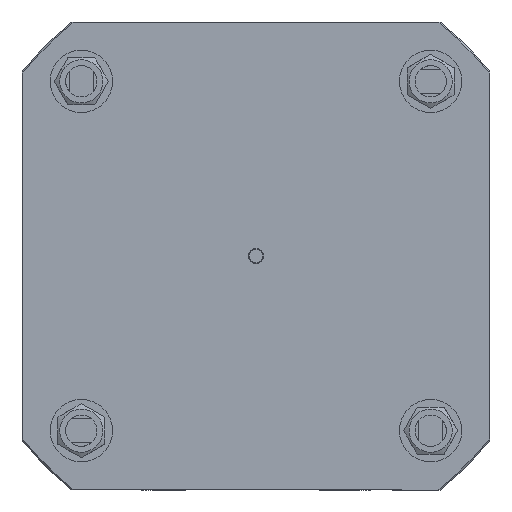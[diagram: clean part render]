
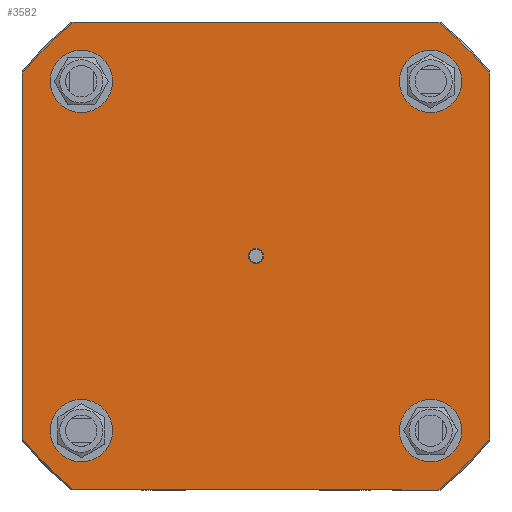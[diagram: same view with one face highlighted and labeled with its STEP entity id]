
A CAD part, left-side view. The second image highlights one B-rep face of the part: STEP entity #3582.
In plain terms, the highlighted planar face has unit normal (-1, 0, 0).
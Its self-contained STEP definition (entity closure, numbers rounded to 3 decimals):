
#229=LINE('',#6042,#432);
#230=LINE('',#6046,#433);
#231=LINE('',#6050,#434);
#232=LINE('',#6054,#435);
#432=VECTOR('',#4833,10.);
#433=VECTOR('',#4836,10.);
#434=VECTOR('',#4839,10.);
#435=VECTOR('',#4842,10.);
#661=FACE_BOUND('',#1067,.T.);
#662=FACE_BOUND('',#1068,.T.);
#663=FACE_BOUND('',#1069,.T.);
#664=FACE_BOUND('',#1070,.T.);
#665=FACE_BOUND('',#1071,.T.);
#831=FACE_OUTER_BOUND('',#1066,.T.);
#1066=EDGE_LOOP('',(#2898,#2899,#2900,#2901,#2902,#2903,#2904,#2905));
#1067=EDGE_LOOP('',(#2906));
#1068=EDGE_LOOP('',(#2907));
#1069=EDGE_LOOP('',(#2908));
#1070=EDGE_LOOP('',(#2909));
#1071=EDGE_LOOP('',(#2910));
#1147=CIRCLE('',#3698,12.);
#1149=CIRCLE('',#3702,12.);
#1151=CIRCLE('',#3706,12.);
#1154=CIRCLE('',#3711,12.);
#1178=CIRCLE('',#3766,3.);
#1287=CIRCLE('',#3963,114.);
#1288=CIRCLE('',#3964,114.);
#1289=CIRCLE('',#3965,114.);
#1290=CIRCLE('',#3966,114.);
#1380=VERTEX_POINT('',#5294);
#1382=VERTEX_POINT('',#5301);
#1384=VERTEX_POINT('',#5308);
#1387=VERTEX_POINT('',#5317);
#1435=VERTEX_POINT('',#5495);
#1589=VERTEX_POINT('',#6040);
#1590=VERTEX_POINT('',#6041);
#1591=VERTEX_POINT('',#6043);
#1592=VERTEX_POINT('',#6045);
#1593=VERTEX_POINT('',#6047);
#1594=VERTEX_POINT('',#6049);
#1595=VERTEX_POINT('',#6051);
#1596=VERTEX_POINT('',#6053);
#1725=EDGE_CURVE('',#1380,#1380,#1147,.T.);
#1728=EDGE_CURVE('',#1382,#1382,#1149,.T.);
#1731=EDGE_CURVE('',#1384,#1384,#1151,.T.);
#1735=EDGE_CURVE('',#1387,#1387,#1154,.T.);
#1810=EDGE_CURVE('',#1435,#1435,#1178,.T.);
#2041=EDGE_CURVE('',#1589,#1590,#229,.T.);
#2042=EDGE_CURVE('',#1590,#1591,#1287,.T.);
#2043=EDGE_CURVE('',#1591,#1592,#230,.T.);
#2044=EDGE_CURVE('',#1592,#1593,#1288,.T.);
#2045=EDGE_CURVE('',#1593,#1594,#231,.T.);
#2046=EDGE_CURVE('',#1594,#1595,#1289,.T.);
#2047=EDGE_CURVE('',#1595,#1596,#232,.T.);
#2048=EDGE_CURVE('',#1596,#1589,#1290,.T.);
#2898=ORIENTED_EDGE('',*,*,#2041,.T.);
#2899=ORIENTED_EDGE('',*,*,#2042,.T.);
#2900=ORIENTED_EDGE('',*,*,#2043,.T.);
#2901=ORIENTED_EDGE('',*,*,#2044,.T.);
#2902=ORIENTED_EDGE('',*,*,#2045,.T.);
#2903=ORIENTED_EDGE('',*,*,#2046,.T.);
#2904=ORIENTED_EDGE('',*,*,#2047,.T.);
#2905=ORIENTED_EDGE('',*,*,#2048,.T.);
#2906=ORIENTED_EDGE('',*,*,#1725,.T.);
#2907=ORIENTED_EDGE('',*,*,#1728,.T.);
#2908=ORIENTED_EDGE('',*,*,#1731,.T.);
#2909=ORIENTED_EDGE('',*,*,#1735,.T.);
#2910=ORIENTED_EDGE('',*,*,#1810,.T.);
#3212=PLANE('',#3962);
#3582=ADVANCED_FACE('',(#831,#661,#662,#663,#664,#665),#3212,.T.);
#3698=AXIS2_PLACEMENT_3D('',#5295,#4167,#4168);
#3702=AXIS2_PLACEMENT_3D('',#5302,#4176,#4177);
#3706=AXIS2_PLACEMENT_3D('',#5309,#4185,#4186);
#3711=AXIS2_PLACEMENT_3D('',#5318,#4196,#4197);
#3766=AXIS2_PLACEMENT_3D('',#5496,#4345,#4346);
#3962=AXIS2_PLACEMENT_3D('',#6039,#4831,#4832);
#3963=AXIS2_PLACEMENT_3D('',#6044,#4834,#4835);
#3964=AXIS2_PLACEMENT_3D('',#6048,#4837,#4838);
#3965=AXIS2_PLACEMENT_3D('',#6052,#4840,#4841);
#3966=AXIS2_PLACEMENT_3D('',#6055,#4843,#4844);
#4167=DIRECTION('center_axis',(1.,0.,0.));
#4168=DIRECTION('ref_axis',(0.,0.,-1.));
#4176=DIRECTION('center_axis',(1.,0.,0.));
#4177=DIRECTION('ref_axis',(0.,-1.,0.));
#4185=DIRECTION('center_axis',(1.,0.,0.));
#4186=DIRECTION('ref_axis',(0.,0.,1.));
#4196=DIRECTION('center_axis',(1.,0.,0.));
#4197=DIRECTION('ref_axis',(0.,1.,0.));
#4345=DIRECTION('center_axis',(1.,0.,0.));
#4346=DIRECTION('ref_axis',(0.,1.,0.));
#4831=DIRECTION('center_axis',(-1.,0.,0.));
#4832=DIRECTION('ref_axis',(0.,0.,-1.));
#4833=DIRECTION('',(0.,-1.,0.));
#4834=DIRECTION('center_axis',(-1.,0.,0.));
#4835=DIRECTION('ref_axis',(0.,0.,-1.));
#4836=DIRECTION('',(0.,0.,1.));
#4837=DIRECTION('center_axis',(-1.,0.,0.));
#4838=DIRECTION('ref_axis',(0.,0.,-1.));
#4839=DIRECTION('',(0.,1.,0.));
#4840=DIRECTION('center_axis',(-1.,0.,0.));
#4841=DIRECTION('ref_axis',(0.,0.,-1.));
#4842=DIRECTION('',(0.,0.,-1.));
#4843=DIRECTION('center_axis',(-1.,0.,0.));
#4844=DIRECTION('ref_axis',(0.,0.,-1.));
#5294=CARTESIAN_POINT('',(-266.066,41.797,19.88));
#5295=CARTESIAN_POINT('Origin',(-266.066,41.797,7.88));
#5301=CARTESIAN_POINT('',(-266.066,-80.554,7.88));
#5302=CARTESIAN_POINT('Origin',(-266.066,-92.554,7.88));
#5308=CARTESIAN_POINT('',(-266.066,-92.554,130.23));
#5309=CARTESIAN_POINT('Origin',(-266.066,-92.554,142.23));
#5317=CARTESIAN_POINT('',(-266.066,29.797,142.23));
#5318=CARTESIAN_POINT('Origin',(-266.066,41.797,142.23));
#5495=CARTESIAN_POINT('',(-266.066,-28.379,75.055));
#5496=CARTESIAN_POINT('Origin',(-266.066,-25.379,75.055));
#6039=CARTESIAN_POINT('Origin',(-266.066,-28.479,75.055));
#6040=CARTESIAN_POINT('',(-266.066,44.593,-14.945));
#6041=CARTESIAN_POINT('',(-266.066,-95.35,-14.945));
#6042=CARTESIAN_POINT('',(-266.066,8.866,-14.945));
#6043=CARTESIAN_POINT('',(-266.066,-115.379,5.083));
#6044=CARTESIAN_POINT('Origin',(-266.066,-25.379,75.055));
#6045=CARTESIAN_POINT('',(-266.066,-115.379,145.026));
#6046=CARTESIAN_POINT('',(-266.066,-115.379,39.26));
#6047=CARTESIAN_POINT('',(-266.066,-95.35,165.055));
#6048=CARTESIAN_POINT('Origin',(-266.066,-25.379,75.055));
#6049=CARTESIAN_POINT('',(-266.066,44.593,165.055));
#6050=CARTESIAN_POINT('',(-266.066,-62.723,165.055));
#6051=CARTESIAN_POINT('',(-266.066,64.621,145.026));
#6052=CARTESIAN_POINT('Origin',(-266.066,-25.379,75.055));
#6053=CARTESIAN_POINT('',(-266.066,64.621,5.083));
#6054=CARTESIAN_POINT('',(-266.066,64.621,110.849));
#6055=CARTESIAN_POINT('Origin',(-266.066,-25.379,75.055));
